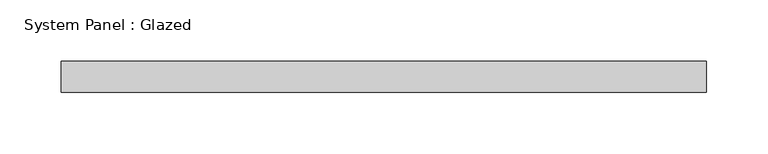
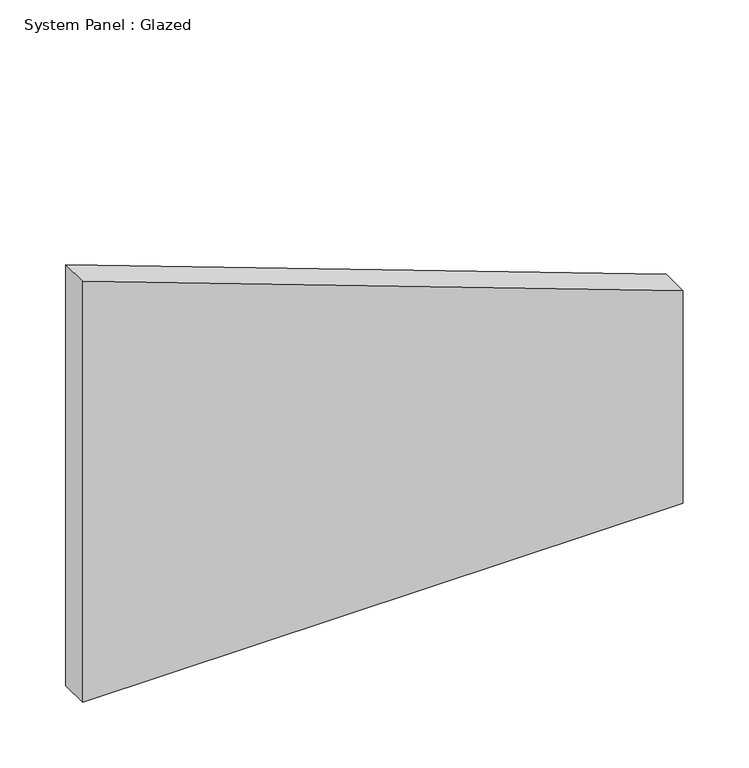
"""IFC4 building model written with IfcOpenShell, lengths in millimetres: plate geometry, System Panel : Glazed."""

from ifc_helpers import new_model, si_unit, point, frame, frame_2d, origin, place, context, project, spatial, polyline, circle_curve, trimmed, segment, composite_curve, outline, extrude, source, transform, mapped, element, save


def system_panel_glazed_65f6affc(model_context):
    return source(origin(), model_context, "Body", "SweptSolid", [
        extrude(outline(composite_curve([segment(polyline([(0.0, -263.525), (0.0, 263.525), (196.978149, 263.525)]), True, "CONTINUOUS"), segment(trimmed(circle_curve(frame_2d((-3131.2800218, -1255.8441072)), 3658.6588985), [point((196.978149, 263.525))], [point((390.2377937, -263.525))], False, "CARTESIAN"), True, "CONTINUOUS"), segment(polyline([(390.2377937, -263.525), (0.0, -263.525)]), True, "CONTINUOUS")], self_intersect=False)), frame((0.0, 19.05, 0.0), z_axis=(0.0, 1.0, 0.0), x_axis=(0.0, 0.0, 1.0)), (0.0, 0.0, 1.0), 25.4),
    ])


if __name__ == "__main__":
    model = new_model("IFC4")
    model_context = context("Model", 3, world=origin())
    ifc_project = project(units=[si_unit("LENGTHUNIT", "METRE", prefix="MILLI")], contexts=[model_context])
    site = spatial("IfcSite", under=ifc_project)
    building = spatial("IfcBuilding", under=site)
    placement = place(None, origin())
    system_panel_glazed_shape = system_panel_glazed_65f6affc(model_context)
    element("IfcPlate", 1, ObjectType="System Panel : Glazed", at=placement, inside=building, context=model_context, shape_type="MappedRepresentation", body=[
        mapped(system_panel_glazed_shape, transform((0.0, 0.0, 0.0), x_axis=(1.0, 0.0, 0.0), y_axis=(0.0, 1.0, 0.0), z_axis=(0.0, 0.0, 1.0))),
    ])
    save(model, "model.ifc")
